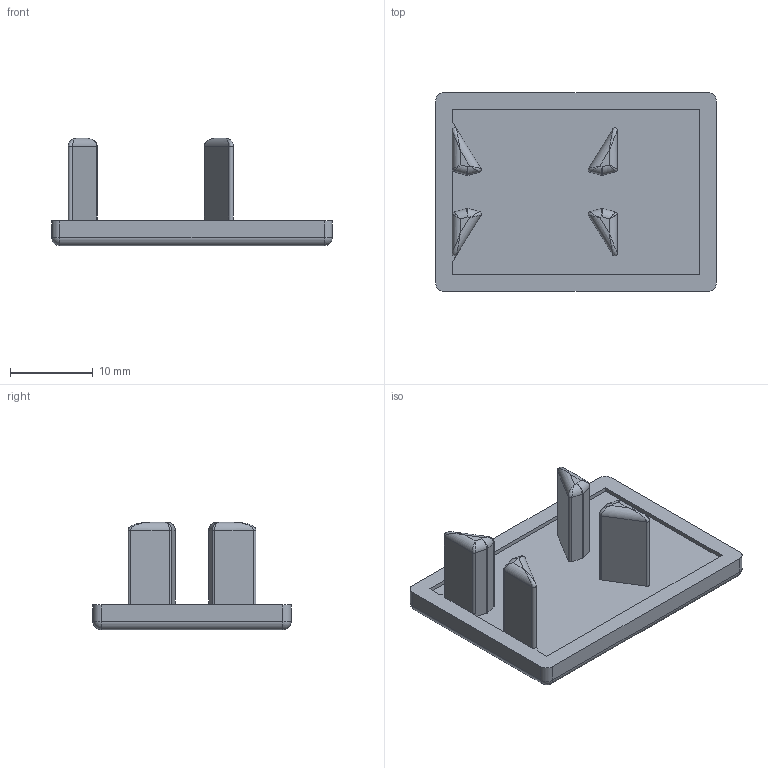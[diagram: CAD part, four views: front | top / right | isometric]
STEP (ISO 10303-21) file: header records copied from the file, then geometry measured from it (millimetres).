
FILE_DESCRIPTION (( 'STEP AP214' ), '1' );
FILE_NAME ('FBEC 24x34.step', '2017-04-05T08:00:50', ( '' ), ( '' ), 'SwSTEP 2.0', 'SolidWorks 2015', '' );
FILE_SCHEMA (( 'AUTOMOTIVE_DESIGN' ));
Length unit declared in the file: millimetre
Products named in the file (1): FBEC 24x34
Bounding box: 34 x 24 x 13 mm (x, y, z)
Volume: 2604.2 mm3; surface area: 2573.2 mm2
Topology: 1 solids, 1 shells, 95 faces, 230 edges, 120 vertices
Faces by surface type: cylinder 42, plane 33, bspline 16, sphere 4
Entity records: 3042 total; most frequent: CARTESIAN_POINT 1058, ORIENTED_EDGE 420, DIRECTION 390, EDGE_CURVE 210, AXIS2_PLACEMENT_3D 132, VECTOR 126, LINE 126, VERTEX_POINT 120
